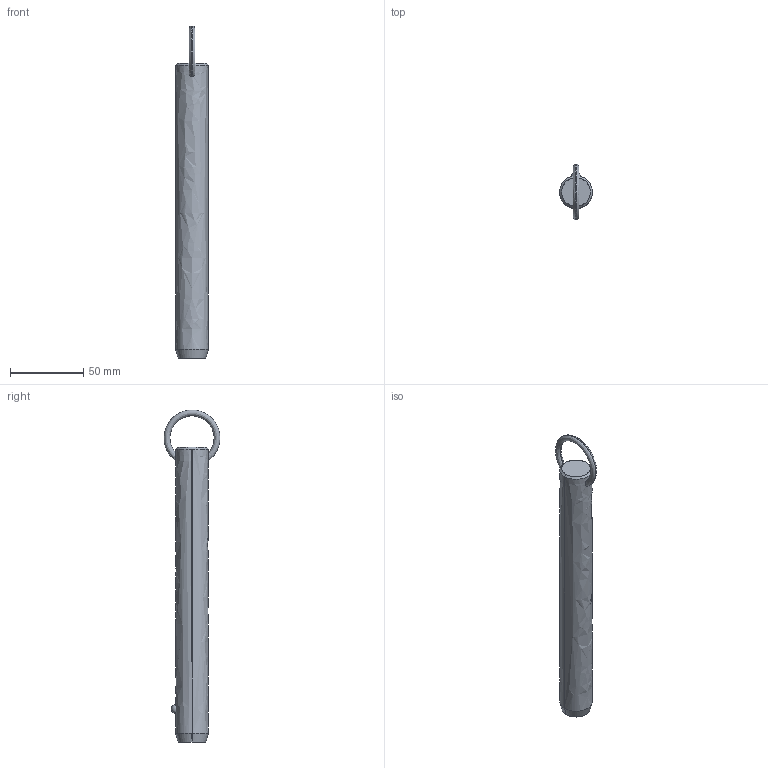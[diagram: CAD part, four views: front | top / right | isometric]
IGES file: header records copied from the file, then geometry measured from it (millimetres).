
Start section: SolidWorks IGES file using analytic representation for surfaces
Global section: file name: C:\Users\liam_\OneDrive\Documents\WORK\Work for WixRoyd\Job Files\J-00019 - Matt Davis CAD Checking\04. CAD Drawings\automotion20190605\P1250.2_v2\P1250.2_v2_20190729_IGES\P1250.087-640.igs; native system: SolidWorks 2017; preprocessor: SolidWorks 2017; author: liam_; date: 190730.074304; units: millimetre
Bounding box: 22.2 x 38.1 x 226.1 mm (x, y, z)
Surface area: 15641.3 mm2 (no closed solid volume)
Topology: 0 solids, 0 shells, 12 faces, 302 edges, 300 vertices
Faces by surface type: revolution 8, bspline 4
